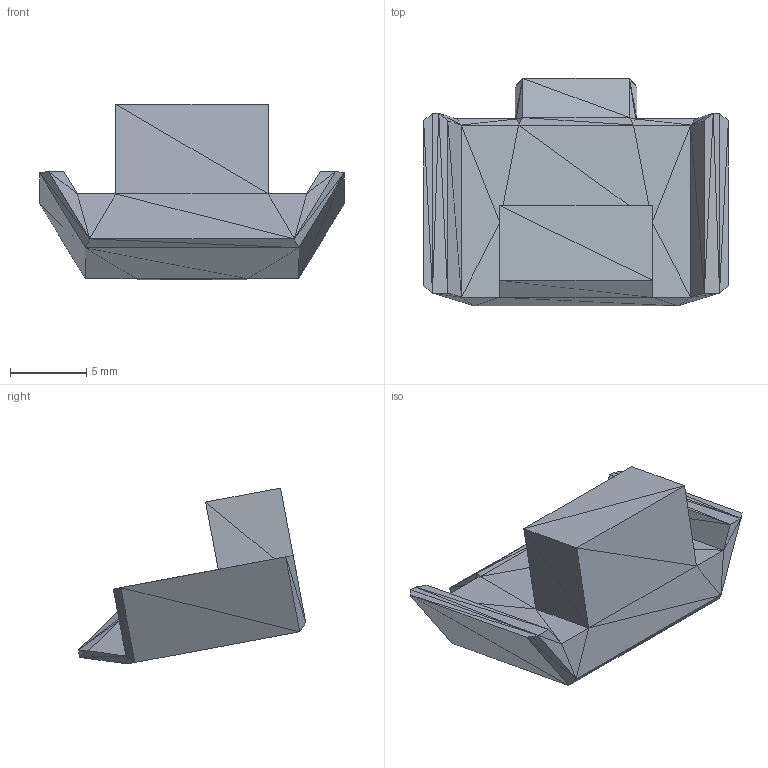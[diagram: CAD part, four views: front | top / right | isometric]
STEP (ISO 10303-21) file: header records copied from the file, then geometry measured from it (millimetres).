
FILE_DESCRIPTION((''),'2;1');
FILE_NAME('Index Finger K3', '2025-03-27T07:43:18', (''), (''), 'ImageToStl.com STEP Converter','', '');
FILE_SCHEMA(('AUTOMOTIVE_DESIGN_CC2'));
Length unit declared in the file: metre
Products named in the file (1): product0
Bounding box: 20 x 14.93 x 11.54 mm (x, y, z)
Surface area: 891.6 mm2 (no closed solid volume)
Topology: 0 solids, 116 shells, 116 faces, 348 edges, 60 vertices
Faces by surface type: plane 116
Entity records: 2823 total; most frequent: DIRECTION 582, ORIENTED_EDGE 348, EDGE_CURVE 348, LINE 348, VECTOR 348, AXIS2_PLACEMENT_3D 117, STYLED_ITEM 117, FACE_SURFACE 116
